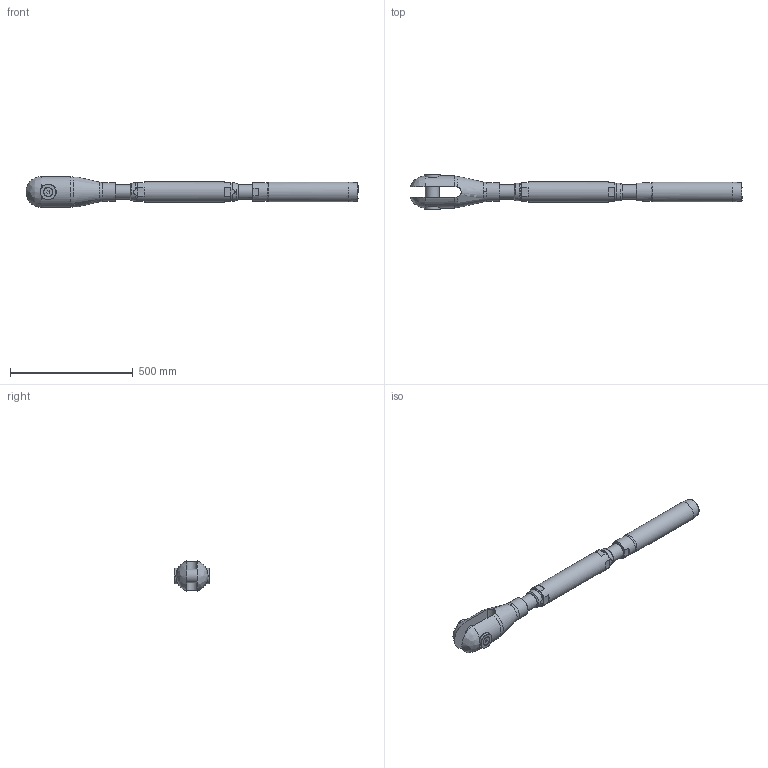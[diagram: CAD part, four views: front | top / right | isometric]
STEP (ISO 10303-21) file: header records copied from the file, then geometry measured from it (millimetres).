
FILE_DESCRIPTION(/* description */ (''),/* implementation_level */ '2;1');
FILE_NAME(/* name */ 'TBC 40_1,4462',/* time_stamp */ '2023-05-23T18:17:25+02:00',/* author */ (''),/* organization */ (''),/* preprocessor_version */ 'ST-DEVELOPER v16.5',/* originating_system */ 'Rhino 7.22',/* authorisation */ '');
FILE_SCHEMA (('CONFIG_CONTROL_DESIGN'));
Length unit declared in the file: millimetre
Products named in the file (1): Document
Bounding box: 1353.9 x 144.95 x 124.08 mm (x, y, z)
Volume: 7237418.8 mm3; surface area: 639486.2 mm2
Topology: 10 solids, 10 shells, 141 faces, 383 edges, 264 vertices
Faces by surface type: plane 65, bspline 41, cylinder 35
Full cylindrical faces by diameter (mm): 17.294 x2, 20 x2, 21 x2, 35.4 x2, 56 x1, 56.752 x4, 57 x2, 60 x2, 64 x3, 77 x2, 81 x1, 85 x1
Entity records: 5962 total; most frequent: CARTESIAN_POINT 3530, ORIENTED_EDGE 758, EDGE_CURVE 379, VERTEX_POINT 264, EDGE_LOOP 161, B_SPLINE_CURVE_WITH_KNOTS 158, ADVANCED_FACE 141, FACE_OUTER_BOUND 141
